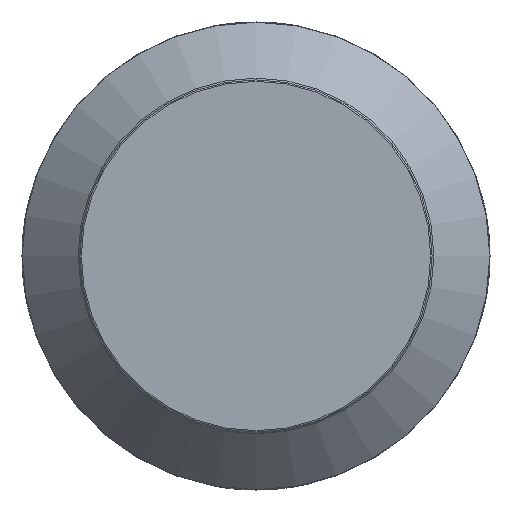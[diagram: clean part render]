
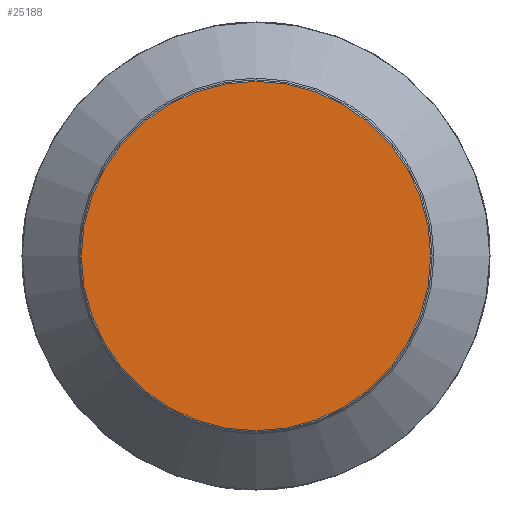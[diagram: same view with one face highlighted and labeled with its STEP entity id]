
A CAD part, left-side view. The second image highlights one B-rep face of the part: STEP entity #25188.
In plain terms, the highlighted planar face has unit normal (-1, 0, 0).
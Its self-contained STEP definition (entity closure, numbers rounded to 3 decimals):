
#2741 = AXIS2_PLACEMENT_3D ( 'NONE', #57226, #12352, #35240 ) ;
#2757 = EDGE_CURVE ( 'NONE', #49001, #49001, #17570, .T. ) ;
#9257 = FACE_OUTER_BOUND ( 'NONE', #27784, .T. ) ;
#12352 = DIRECTION ( 'NONE',  ( -1., 0., 0. ) ) ;
#14468 = CARTESIAN_POINT ( 'NONE',  ( 0., 0., 0. ) ) ;
#17570 = CIRCLE ( 'NONE', #2741, 37.7 ) ;
#19090 = CARTESIAN_POINT ( 'NONE',  ( 0., 0., -37.7 ) ) ;
#21042 = AXIS2_PLACEMENT_3D ( 'NONE', #14468, #22614, #27264 ) ;
#22614 = DIRECTION ( 'NONE',  ( 1., 0., 0. ) ) ;
#25188 = ADVANCED_FACE ( 'NONE', ( #9257 ), #31348, .F. ) ;
#26416 = ORIENTED_EDGE ( 'NONE', *, *, #2757, .T. ) ;
#27264 = DIRECTION ( 'NONE',  ( 0., 0., -1. ) ) ;
#27784 = EDGE_LOOP ( 'NONE', ( #26416 ) ) ;
#31348 = PLANE ( 'NONE',  #21042 ) ;
#35240 = DIRECTION ( 'NONE',  ( 0., 0., -1. ) ) ;
#49001 = VERTEX_POINT ( 'NONE', #19090 ) ;
#57226 = CARTESIAN_POINT ( 'NONE',  ( 0., 0., 0. ) ) ;
